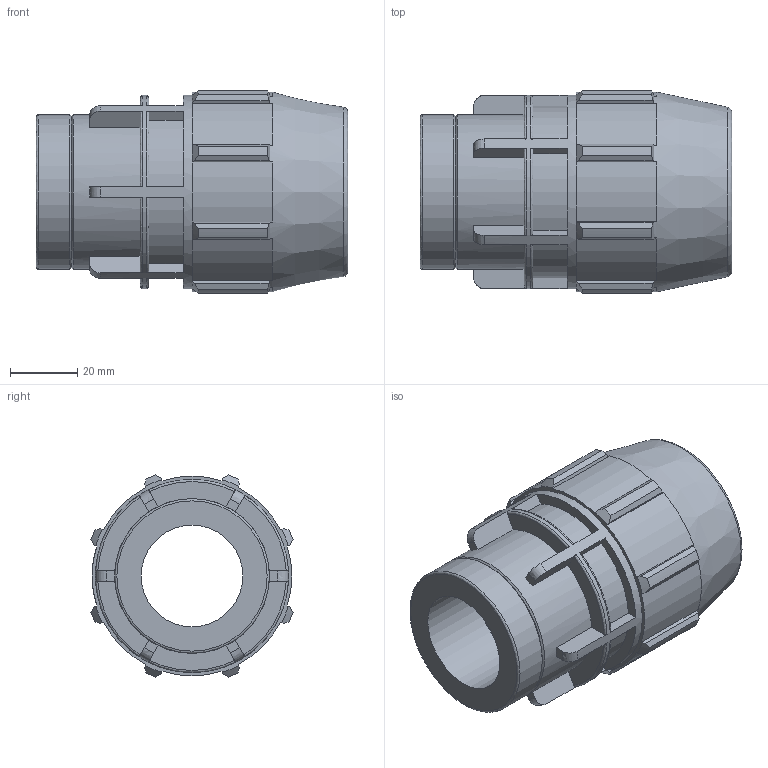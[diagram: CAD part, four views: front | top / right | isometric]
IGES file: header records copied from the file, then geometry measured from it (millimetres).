
Global section: file name: 0703M0T10010.ipt; native system: Autodesk Inventor 2019; preprocessor: unknown; author: KIM; date: 20210826.124515; units: inch
Bounding box: 92.96 x 60.23 x 60.23 mm (x, y, z)
Volume: 130778.9 mm3; surface area: 31646.9 mm2
Topology: 1 solids, 1 shells, 155 faces, 435 edges, 292 vertices
Faces by surface type: plane 86, revolution 25, cylinder 25, cone 19
Full cylindrical faces by diameter (mm): 46.086 x2, 57.607 x1
